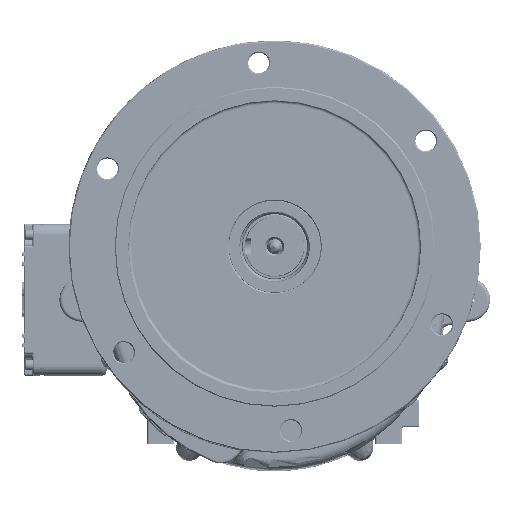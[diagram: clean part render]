
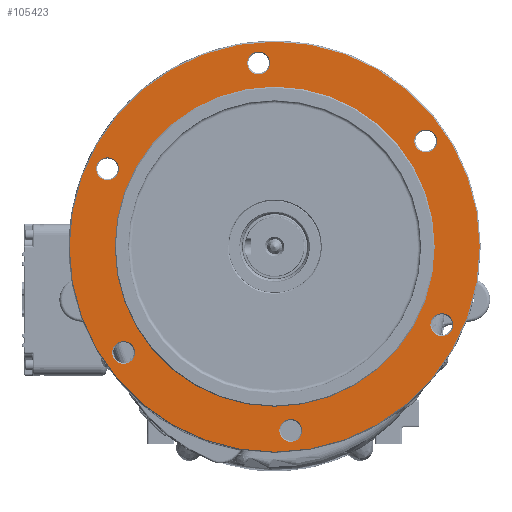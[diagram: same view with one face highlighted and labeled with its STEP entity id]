
A CAD part, front view. The second image highlights one B-rep face of the part: STEP entity #105423.
In plain terms, the highlighted planar face has unit normal (0, -1, 0).
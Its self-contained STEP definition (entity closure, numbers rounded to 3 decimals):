
#6128=FACE_BOUND('',#16510,.T.);
#6129=FACE_BOUND('',#16511,.T.);
#6130=FACE_BOUND('',#16512,.T.);
#6131=FACE_BOUND('',#16513,.T.);
#6132=FACE_BOUND('',#16514,.T.);
#6133=FACE_BOUND('',#16515,.T.);
#6134=FACE_BOUND('',#16516,.T.);
#7033=PLANE('',#113481);
#9952=FACE_OUTER_BOUND('',#16509,.T.);
#16509=EDGE_LOOP('',(#74452));
#16510=EDGE_LOOP('',(#74453));
#16511=EDGE_LOOP('',(#74454));
#16512=EDGE_LOOP('',(#74455));
#16513=EDGE_LOOP('',(#74456));
#16514=EDGE_LOOP('',(#74457));
#16515=EDGE_LOOP('',(#74458));
#16516=EDGE_LOOP('',(#74459));
#36457=CIRCLE('',#113478,10.5);
#36460=CIRCLE('',#113482,189.);
#36461=CIRCLE('',#113483,10.5);
#36462=CIRCLE('',#113484,10.5);
#36463=CIRCLE('',#113485,10.5);
#36464=CIRCLE('',#113486,147.5);
#36465=CIRCLE('',#113487,10.5);
#36466=CIRCLE('',#113488,10.5);
#43294=VERTEX_POINT('',#163280);
#43297=VERTEX_POINT('',#163288);
#43298=VERTEX_POINT('',#163290);
#43299=VERTEX_POINT('',#163292);
#43300=VERTEX_POINT('',#163294);
#43301=VERTEX_POINT('',#163296);
#43302=VERTEX_POINT('',#163298);
#43303=VERTEX_POINT('',#163300);
#54397=EDGE_CURVE('',#43294,#43294,#36457,.T.);
#54401=EDGE_CURVE('',#43297,#43297,#36460,.T.);
#54402=EDGE_CURVE('',#43298,#43298,#36461,.T.);
#54403=EDGE_CURVE('',#43299,#43299,#36462,.T.);
#54404=EDGE_CURVE('',#43300,#43300,#36463,.T.);
#54405=EDGE_CURVE('',#43301,#43301,#36464,.T.);
#54406=EDGE_CURVE('',#43302,#43302,#36465,.T.);
#54407=EDGE_CURVE('',#43303,#43303,#36466,.T.);
#74452=ORIENTED_EDGE('',*,*,#54401,.F.);
#74453=ORIENTED_EDGE('',*,*,#54402,.F.);
#74454=ORIENTED_EDGE('',*,*,#54403,.F.);
#74455=ORIENTED_EDGE('',*,*,#54404,.F.);
#74456=ORIENTED_EDGE('',*,*,#54405,.F.);
#74457=ORIENTED_EDGE('',*,*,#54406,.F.);
#74458=ORIENTED_EDGE('',*,*,#54407,.F.);
#74459=ORIENTED_EDGE('',*,*,#54397,.F.);
#105423=ADVANCED_FACE('',(#9952,#6128,#6129,#6130,#6131,#6132,#6133,#6134),
#7033,.T.);
#113478=AXIS2_PLACEMENT_3D('',#163281,#129990,#129991);
#113481=AXIS2_PLACEMENT_3D('',#163287,#129997,#129998);
#113482=AXIS2_PLACEMENT_3D('',#163289,#129999,#130000);
#113483=AXIS2_PLACEMENT_3D('',#163291,#130001,#130002);
#113484=AXIS2_PLACEMENT_3D('',#163293,#130003,#130004);
#113485=AXIS2_PLACEMENT_3D('',#163295,#130005,#130006);
#113486=AXIS2_PLACEMENT_3D('',#163297,#130007,#130008);
#113487=AXIS2_PLACEMENT_3D('',#163299,#130009,#130010);
#113488=AXIS2_PLACEMENT_3D('',#163301,#130011,#130012);
#129990=DIRECTION('center_axis',(0.,-1.,0.));
#129991=DIRECTION('ref_axis',(-0.5,0.,-0.866));
#129997=DIRECTION('center_axis',(0.,-1.,0.));
#129998=DIRECTION('ref_axis',(0.,0.,-1.));
#129999=DIRECTION('center_axis',(0.,1.,0.));
#130000=DIRECTION('ref_axis',(-1.,0.,0.));
#130001=DIRECTION('center_axis',(0.,-1.,0.));
#130002=DIRECTION('ref_axis',(0.5,0.,-0.866));
#130003=DIRECTION('center_axis',(0.,-1.,0.));
#130004=DIRECTION('ref_axis',(0.5,0.,0.866));
#130005=DIRECTION('center_axis',(0.,-1.,0.));
#130006=DIRECTION('ref_axis',(-1.,0.,0.));
#130007=DIRECTION('center_axis',(0.,-1.,0.));
#130008=DIRECTION('ref_axis',(-1.,0.,0.));
#130009=DIRECTION('center_axis',(0.,-1.,0.));
#130010=DIRECTION('ref_axis',(-0.5,0.,0.866));
#130011=DIRECTION('center_axis',(0.,-1.,0.));
#130012=DIRECTION('ref_axis',(1.,0.,0.));
#163280=CARTESIAN_POINT('',(-148.594,-213.228,128.188));
#163281=CARTESIAN_POINT('Origin',(-153.844,-213.228,119.095));
#163287=CARTESIAN_POINT('Origin',(0.228,-213.228,47.25));
#163288=CARTESIAN_POINT('',(189.228,-213.228,47.25));
#163289=CARTESIAN_POINT('Origin',(0.228,-213.228,47.25));
#163290=CARTESIAN_POINT('',(-144.277,-213.228,-41.165));
#163291=CARTESIAN_POINT('Origin',(-139.027,-213.228,-50.258));
#163292=CARTESIAN_POINT('',(149.051,-213.228,-33.688));
#163293=CARTESIAN_POINT('Origin',(154.301,-213.228,-24.595));
#163294=CARTESIAN_POINT('',(-4.088,-213.228,216.603));
#163295=CARTESIAN_POINT('Origin',(-14.588,-213.228,216.603));
#163296=CARTESIAN_POINT('',(147.728,-213.228,47.25));
#163297=CARTESIAN_POINT('Origin',(0.228,-213.228,47.25));
#163298=CARTESIAN_POINT('',(144.734,-213.228,135.665));
#163299=CARTESIAN_POINT('Origin',(139.484,-213.228,144.758));
#163300=CARTESIAN_POINT('',(4.545,-213.228,-122.103));
#163301=CARTESIAN_POINT('Origin',(15.045,-213.228,-122.103));
